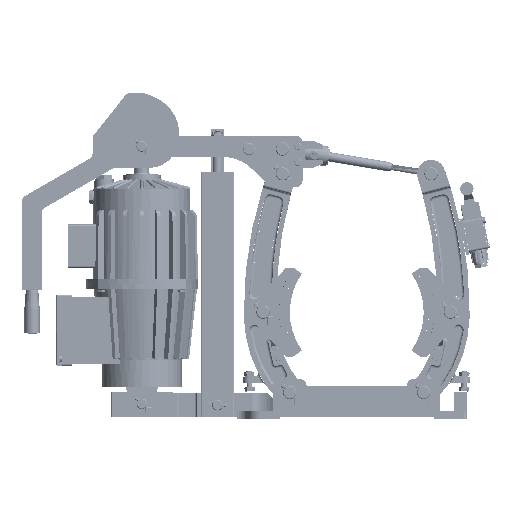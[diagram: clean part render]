
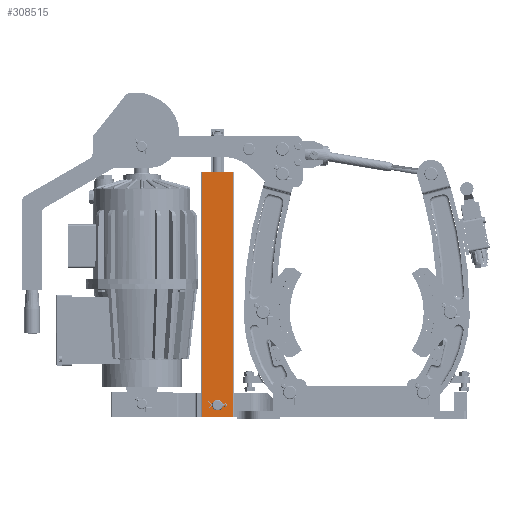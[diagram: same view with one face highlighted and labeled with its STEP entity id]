
A CAD part, left-side view. The second image highlights one B-rep face of the part: STEP entity #308515.
In plain terms, the highlighted planar face has unit normal (-1, 0, 0).
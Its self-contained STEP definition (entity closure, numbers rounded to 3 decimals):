
#308366=DIRECTION('',(0.,0.,1.));
#308367=VECTOR('',#308366,365.);
#308368=CARTESIAN_POINT('',(-69.999,396.,3.5));
#308369=LINE('',#308368,#308367);
#308373=DIRECTION('',(0.,-1.,0.));
#308374=VECTOR('',#308373,46.);
#308375=CARTESIAN_POINT('',(-69.999,396.,368.5));
#308376=LINE('',#308375,#308374);
#308380=DIRECTION('',(0.,0.,-1.));
#308381=VECTOR('',#308380,365.);
#308382=CARTESIAN_POINT('',(-69.999,350.,368.5));
#308383=LINE('',#308382,#308381);
#308387=DIRECTION('',(0.,1.,0.));
#308388=VECTOR('',#308387,46.);
#308389=CARTESIAN_POINT('',(-69.999,350.,3.5));
#308390=LINE('',#308389,#308388);
#308394=CARTESIAN_POINT('',(-69.999,373.,13.));
#308395=CARTESIAN_POINT('',(-69.999,372.699,
13.));
#308396=CARTESIAN_POINT('',(-69.999,372.102,
13.034));
#308397=CARTESIAN_POINT('',(-69.999,371.215,
13.184));
#308398=CARTESIAN_POINT('',(-69.999,370.352,
13.433));
#308399=CARTESIAN_POINT('',(-69.999,369.522,
13.777));
#308400=CARTESIAN_POINT('',(-69.999,368.734,
14.213));
#308401=CARTESIAN_POINT('',(-69.999,368.,
14.733));
#308402=CARTESIAN_POINT('',(-69.999,367.33,
15.333));
#308403=CARTESIAN_POINT('',(-69.999,366.731,
16.003));
#308404=CARTESIAN_POINT('',(-69.999,366.211,
16.736));
#308405=CARTESIAN_POINT('',(-69.999,365.776,
17.523));
#308406=CARTESIAN_POINT('',(-69.999,365.433,
18.352));
#308407=CARTESIAN_POINT('',(-69.999,365.184,
19.215));
#308408=CARTESIAN_POINT('',(-69.999,365.034,
20.102));
#308409=CARTESIAN_POINT('',(-69.999,365.,
20.699));
#308410=CARTESIAN_POINT('',(-69.999,365.,21.));
#308415=CARTESIAN_POINT('',(-69.999,365.,21.));
#308416=CARTESIAN_POINT('',(-69.999,365.,
21.301));
#308417=CARTESIAN_POINT('',(-69.999,365.034,
21.898));
#308418=CARTESIAN_POINT('',(-69.999,365.184,
22.785));
#308419=CARTESIAN_POINT('',(-69.999,365.433,
23.648));
#308420=CARTESIAN_POINT('',(-69.999,365.777,
24.478));
#308421=CARTESIAN_POINT('',(-69.999,366.213,
25.266));
#308422=CARTESIAN_POINT('',(-69.999,366.733,
26.));
#308423=CARTESIAN_POINT('',(-69.999,367.333,
26.67));
#308424=CARTESIAN_POINT('',(-69.999,368.003,
27.269));
#308425=CARTESIAN_POINT('',(-69.999,368.736,
27.789));
#308426=CARTESIAN_POINT('',(-69.999,369.523,
28.224));
#308427=CARTESIAN_POINT('',(-69.999,370.352,
28.567));
#308428=CARTESIAN_POINT('',(-69.999,371.215,
28.816));
#308429=CARTESIAN_POINT('',(-69.999,372.102,
28.966));
#308430=CARTESIAN_POINT('',(-69.999,372.699,
29.));
#308431=CARTESIAN_POINT('',(-69.999,373.,29.));
#308436=CARTESIAN_POINT('',(-69.999,373.,29.));
#308437=CARTESIAN_POINT('',(-69.999,373.301,
29.));
#308438=CARTESIAN_POINT('',(-69.999,373.898,
28.966));
#308439=CARTESIAN_POINT('',(-69.999,374.785,
28.816));
#308440=CARTESIAN_POINT('',(-69.999,375.648,
28.567));
#308441=CARTESIAN_POINT('',(-69.999,376.478,
28.223));
#308442=CARTESIAN_POINT('',(-69.999,377.266,
27.787));
#308443=CARTESIAN_POINT('',(-69.999,378.,
27.267));
#308444=CARTESIAN_POINT('',(-69.999,378.67,
26.667));
#308445=CARTESIAN_POINT('',(-69.999,379.269,
25.997));
#308446=CARTESIAN_POINT('',(-69.999,379.789,
25.264));
#308447=CARTESIAN_POINT('',(-69.999,380.224,
24.477));
#308448=CARTESIAN_POINT('',(-69.999,380.567,
23.648));
#308449=CARTESIAN_POINT('',(-69.999,380.816,
22.785));
#308450=CARTESIAN_POINT('',(-69.999,380.966,
21.898));
#308451=CARTESIAN_POINT('',(-69.999,381.,
21.301));
#308452=CARTESIAN_POINT('',(-69.999,381.,21.));
#308457=CARTESIAN_POINT('',(-69.999,381.,21.));
#308458=CARTESIAN_POINT('',(-69.999,381.,
20.699));
#308459=CARTESIAN_POINT('',(-69.999,380.966,
20.102));
#308460=CARTESIAN_POINT('',(-69.999,380.816,
19.215));
#308461=CARTESIAN_POINT('',(-69.999,380.567,
18.352));
#308462=CARTESIAN_POINT('',(-69.999,380.223,
17.522));
#308463=CARTESIAN_POINT('',(-69.999,379.787,
16.734));
#308464=CARTESIAN_POINT('',(-69.999,379.267,
16.));
#308465=CARTESIAN_POINT('',(-69.999,378.667,
15.33));
#308466=CARTESIAN_POINT('',(-69.999,377.997,
14.731));
#308467=CARTESIAN_POINT('',(-69.999,377.264,
14.211));
#308468=CARTESIAN_POINT('',(-69.999,376.477,
13.776));
#308469=CARTESIAN_POINT('',(-69.999,375.648,
13.433));
#308470=CARTESIAN_POINT('',(-69.999,374.785,
13.184));
#308471=CARTESIAN_POINT('',(-69.999,373.898,
13.034));
#308472=CARTESIAN_POINT('',(-69.999,373.301,
13.));
#308473=CARTESIAN_POINT('',(-69.999,373.,13.));
#308478=CARTESIAN_POINT('',(-69.999,396.,3.5));
#308479=CARTESIAN_POINT('',(-69.999,396.,368.5));
#308480=VERTEX_POINT('',#308478);
#308481=VERTEX_POINT('',#308479);
#308482=CARTESIAN_POINT('',(-69.999,350.,368.5));
#308483=VERTEX_POINT('',#308482);
#308484=CARTESIAN_POINT('',(-69.999,350.,3.5));
#308485=VERTEX_POINT('',#308484);
#308486=VERTEX_POINT('',#308394);
#308487=VERTEX_POINT('',#308410);
#308488=VERTEX_POINT('',#308431);
#308489=VERTEX_POINT('',#308452);
#308490=CARTESIAN_POINT('',(-69.999,373.,186.));
#308491=DIRECTION('',(1.,0.,0.));
#308492=DIRECTION('',(0.,0.,1.));
#308493=AXIS2_PLACEMENT_3D('',#308490,#308491,#308492);
#308494=PLANE('',#308493);
#308496=ORIENTED_EDGE('',*,*,#308495,.T.);
#308498=ORIENTED_EDGE('',*,*,#308497,.T.);
#308500=ORIENTED_EDGE('',*,*,#308499,.T.);
#308502=ORIENTED_EDGE('',*,*,#308501,.T.);
#308503=EDGE_LOOP('',(#308496,#308498,#308500,#308502));
#308504=FACE_OUTER_BOUND('',#308503,.F.);
#308506=ORIENTED_EDGE('',*,*,#308505,.T.);
#308508=ORIENTED_EDGE('',*,*,#308507,.T.);
#308510=ORIENTED_EDGE('',*,*,#308509,.T.);
#308512=ORIENTED_EDGE('',*,*,#308511,.T.);
#308513=EDGE_LOOP('',(#308506,#308508,#308510,#308512));
#308514=FACE_BOUND('',#308513,.F.);
#308515=ADVANCED_FACE('',(#308504,#308514),#308494,.F.);
#308411=B_SPLINE_CURVE_WITH_KNOTS('',3,(#308394,#308395,#308396,#308397,#308398,
#308399,#308400,#308401,#308402,#308403,#308404,#308405,#308406,#308407,#308408,
#308409,#308410),.UNSPECIFIED.,.F.,.F.,(4,1,1,1,1,1,1,1,1,1,1,1,1,1,4),(0.,
0.071,0.143,0.214,0.286,
0.357,0.429,0.5,0.571,0.643,
0.714,0.786,0.857,0.929,1.),
.UNSPECIFIED.);
#308432=B_SPLINE_CURVE_WITH_KNOTS('',3,(#308415,#308416,#308417,#308418,#308419,
#308420,#308421,#308422,#308423,#308424,#308425,#308426,#308427,#308428,#308429,
#308430,#308431),.UNSPECIFIED.,.F.,.F.,(4,1,1,1,1,1,1,1,1,1,1,1,1,1,4),(0.,
0.071,0.143,0.214,0.286,
0.357,0.429,0.5,0.571,0.643,
0.714,0.786,0.857,0.929,1.),
.UNSPECIFIED.);
#308453=B_SPLINE_CURVE_WITH_KNOTS('',3,(#308436,#308437,#308438,#308439,#308440,
#308441,#308442,#308443,#308444,#308445,#308446,#308447,#308448,#308449,#308450,
#308451,#308452),.UNSPECIFIED.,.F.,.F.,(4,1,1,1,1,1,1,1,1,1,1,1,1,1,4),(0.,
0.071,0.143,0.214,0.286,
0.357,0.429,0.5,0.571,0.643,
0.714,0.786,0.857,0.929,1.),
.UNSPECIFIED.);
#308474=B_SPLINE_CURVE_WITH_KNOTS('',3,(#308457,#308458,#308459,#308460,#308461,
#308462,#308463,#308464,#308465,#308466,#308467,#308468,#308469,#308470,#308471,
#308472,#308473),.UNSPECIFIED.,.F.,.F.,(4,1,1,1,1,1,1,1,1,1,1,1,1,1,4),(0.,
0.071,0.143,0.214,0.286,
0.357,0.429,0.5,0.571,0.643,
0.714,0.786,0.857,0.929,1.),
.UNSPECIFIED.);
#308495=EDGE_CURVE('',#308480,#308481,#308369,.T.);
#308497=EDGE_CURVE('',#308481,#308483,#308376,.T.);
#308499=EDGE_CURVE('',#308483,#308485,#308383,.T.);
#308501=EDGE_CURVE('',#308485,#308480,#308390,.T.);
#308505=EDGE_CURVE('',#308486,#308487,#308411,.T.);
#308507=EDGE_CURVE('',#308487,#308488,#308432,.T.);
#308509=EDGE_CURVE('',#308488,#308489,#308453,.T.);
#308511=EDGE_CURVE('',#308489,#308486,#308474,.T.);
